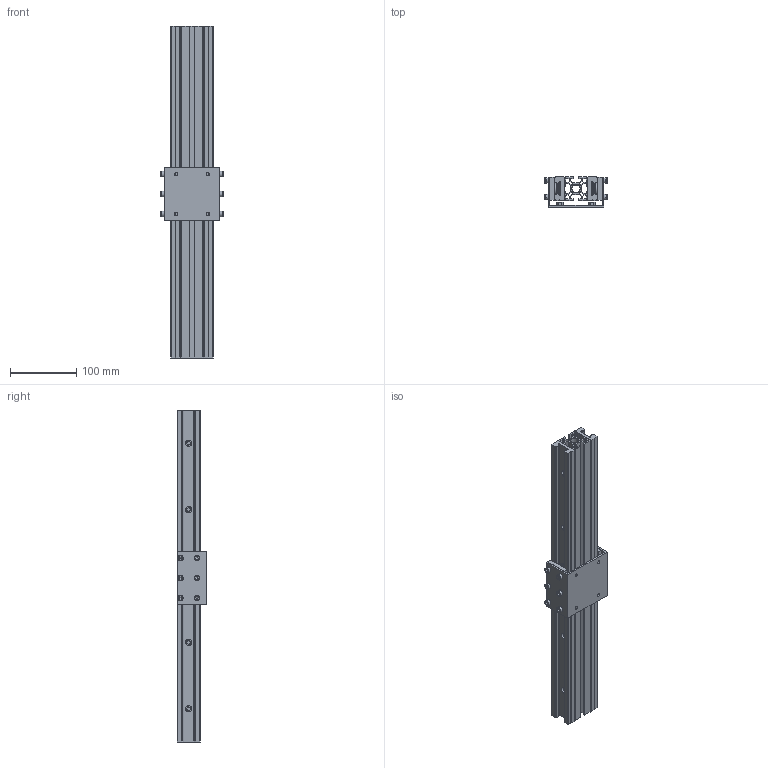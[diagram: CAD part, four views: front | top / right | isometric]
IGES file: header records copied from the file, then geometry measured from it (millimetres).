
Start section: SolidWorks IGES file using analytic representation for surfaces
Global section: file name: C:\Users\tsuch\OneDrive\デスクトップ\LSIM-DB(3D)\参考図面\LSIM35DB.IGS; native system: SolidWorks 2019; preprocessor: SolidWorks 2019; author: tsuch; date: 200728.134900; units: millimetre
Bounding box: 94 x 45 x 500 mm (x, y, z)
Volume: 621536.2 mm3; surface area: 398486.4 mm2
Topology: 18 solids, 18 shells, 946 faces, 2332 edges, 1492 vertices
Faces by surface type: revolution 558, plane 388
